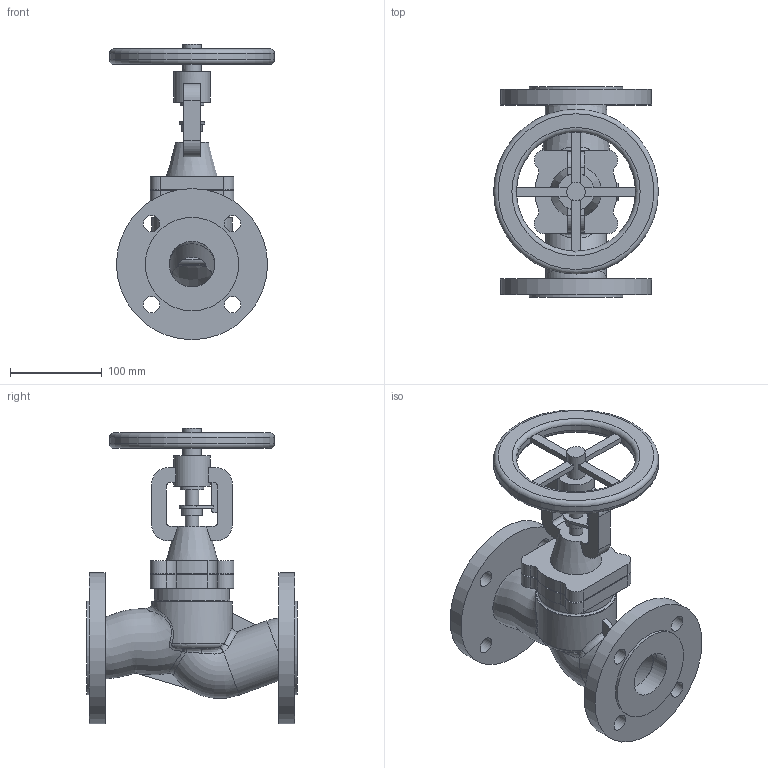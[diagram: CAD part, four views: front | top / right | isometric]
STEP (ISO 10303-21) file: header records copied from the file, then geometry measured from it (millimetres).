
FILE_DESCRIPTION(('STEP AP203'), '1');
FILE_NAME('孰囡囗 玎镱痦 BV1F DN50', '', ('UNSPECIFIED'), ('UNSPECIFIED'), 'ASCON STEP Converter 1.6', 'ASCON Math Kernel', '');
FILE_SCHEMA(('CONFIG_CONTROL_DESIGN'));
Length unit declared in the file: millimetre
Bounding box: 180 x 230 x 322.5 mm (x, y, z)
Volume: 1950479.3 mm3; surface area: 289090.4 mm2
Topology: 1 solids, 2 shells, 194 faces, 532 edges, 361 vertices
Faces by surface type: plane 90, cylinder 67, bspline 22, torus 14, cone 1
Full cylindrical faces by diameter (mm): 15 x2, 18 x8, 20 x1, 22 x1, 26 x1, 40 x1, 50 x3, 66 x1, 80 x1, 82 x1, 88 x1, 102 x2, 130 x1, 165 x2, 180 x1
Entity records: 45286 total; most frequent: CARTESIAN_POINT 38927, ORIENTED_EDGE 988, DIRECTION 934, EDGE_CURVE 494, AXIS2_PLACEMENT_3D 378, VERTEX_POINT 361, EDGE_LOOP 279, FACE_BOUND 242
